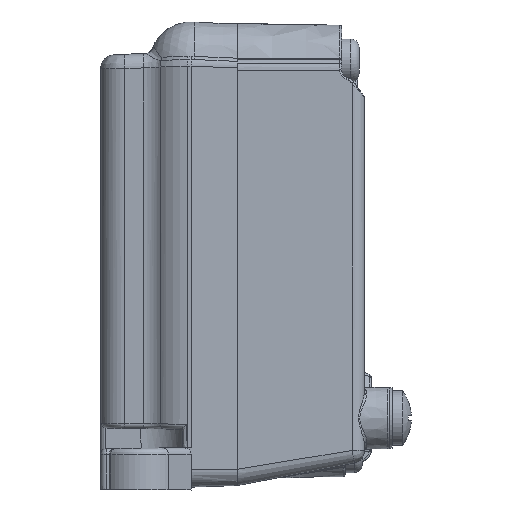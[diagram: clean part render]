
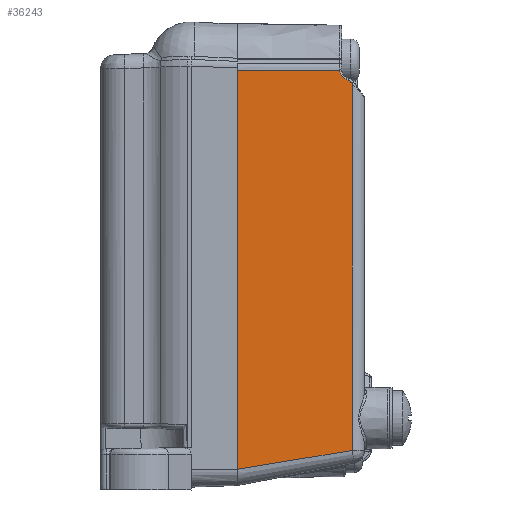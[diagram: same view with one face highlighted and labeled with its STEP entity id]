
A CAD part, left-side view. The second image highlights one B-rep face of the part: STEP entity #36243.
In plain terms, the highlighted planar face has unit normal (-1, -0.018, 0).
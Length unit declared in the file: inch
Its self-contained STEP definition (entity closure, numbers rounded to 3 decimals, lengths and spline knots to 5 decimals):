
#22195=CARTESIAN_POINT('',(-1.67977,0.42318,1.1028));
#22196=VERTEX_POINT('',#22195);
#28774=CARTESIAN_POINT('',(-1.68083,0.48501,1.16905));
#28775=VERTEX_POINT('',#28774);
#28856=CARTESIAN_POINT('',(-1.68029,0.45296,1.1234));
#28857=VERTEX_POINT('',#28856);
#28858=CARTESIAN_POINT('',(-1.67998,0.43504,1.17008));
#28859=DIRECTION('',(-1.,-0.017,0.));
#28860=DIRECTION('',(-0.017,0.999,-0.047));
#28861=AXIS2_PLACEMENT_3D('',#28858,#28859,#28860);
#28862=CIRCLE('',#28861,0.05);
#28863=EDGE_CURVE('',#28775,#28857,#28862,.T.);
#29034=CARTESIAN_POINT('',(-1.68013,0.44353,1.11978));
#29035=VERTEX_POINT('',#29034);
#29036=CARTESIAN_POINT('',(-1.67866,0.35934,1.08746));
#29037=DIRECTION('',(0.016,-0.933,-0.358));
#29038=VECTOR('',#29037,0.01);
#29039=LINE('',#29036,#29038);
#29040=EDGE_CURVE('',#28857,#29035,#29039,.T.);
#29059=CARTESIAN_POINT('',(-1.67982,0.42571,1.10623));
#29060=VERTEX_POINT('',#29059);
#29061=CARTESIAN_POINT('',(-1.68038,0.45787,1.08243));
#29062=DIRECTION('',(1.,0.017,0.));
#29063=DIRECTION('',(0.006,-0.358,0.934));
#29064=AXIS2_PLACEMENT_3D('',#29061,#29062,#29063);
#29065=CIRCLE('',#29064,0.04001);
#29066=EDGE_CURVE('',#29035,#29060,#29065,.T.);
#29177=CARTESIAN_POINT('',(-1.67382,0.08203,0.64177));
#29178=DIRECTION('',(0.01,-0.595,-0.804));
#29179=VECTOR('',#29178,0.01);
#29180=LINE('',#29177,#29179);
#29181=EDGE_CURVE('',#29060,#22196,#29180,.T.);
#29198=CARTESIAN_POINT('',(-1.67977,0.42318,-0.71957));
#29199=VERTEX_POINT('',#29198);
#29200=CARTESIAN_POINT('',(-1.67977,0.42318,0.12665));
#29201=DIRECTION('',(0.,0.,-1.));
#29202=VECTOR('',#29201,0.062);
#29203=LINE('',#29200,#29202);
#29204=EDGE_CURVE('',#22196,#29199,#29203,.T.);
#35573=CARTESIAN_POINT('',(-1.68973,0.99334,1.16944));
#35574=VERTEX_POINT('',#35573);
#35582=CARTESIAN_POINT('',(-1.68973,0.99334,1.16944));
#35583=CARTESIAN_POINT('',(-1.68933,0.97083,1.16936));
#35584=CARTESIAN_POINT('',(-1.68894,0.94833,1.16928));
#35585=CARTESIAN_POINT('',(-1.68855,0.92582,1.16921));
#35586=CARTESIAN_POINT('',(-1.68811,0.90076,1.16912));
#35587=CARTESIAN_POINT('',(-1.68767,0.8757,1.16903));
#35588=CARTESIAN_POINT('',(-1.68724,0.85065,1.16895));
#35589=CARTESIAN_POINT('',(-1.68696,0.83498,1.1689));
#35590=CARTESIAN_POINT('',(-1.68669,0.81932,1.16884));
#35591=CARTESIAN_POINT('',(-1.68642,0.80366,1.16879));
#35592=CARTESIAN_POINT('',(-1.68625,0.79387,1.16876));
#35593=CARTESIAN_POINT('',(-1.68607,0.78408,1.16872));
#35594=CARTESIAN_POINT('',(-1.6859,0.77429,1.16869));
#35595=CARTESIAN_POINT('',(-1.68568,0.76148,1.16865));
#35596=CARTESIAN_POINT('',(-1.68546,0.74867,1.1686));
#35597=CARTESIAN_POINT('',(-1.68523,0.73586,1.16856));
#35598=CARTESIAN_POINT('',(-1.68487,0.71536,1.16849));
#35599=CARTESIAN_POINT('',(-1.68452,0.69486,1.16842));
#35600=CARTESIAN_POINT('',(-1.68416,0.67436,1.16835));
#35601=CARTESIAN_POINT('',(-1.68359,0.64155,1.16824));
#35602=CARTESIAN_POINT('',(-1.68301,0.60875,1.16813));
#35603=CARTESIAN_POINT('',(-1.68244,0.57595,1.16803));
#35604=CARTESIAN_POINT('',(-1.68191,0.54564,1.16792));
#35605=CARTESIAN_POINT('',(-1.68138,0.51533,1.16782));
#35606=CARTESIAN_POINT('',(-1.68085,0.48501,1.16772));
#35607=B_SPLINE_CURVE_WITH_KNOTS('',3,(#35582,#35583,#35584,#35585,#35586,#35587,#35588,#35589,#35590,#35591,#35592,#35593,#35594,#35595,#35596,#35597,#35598,#35599,#35600,#35601,#35602,#35603,#35604,#35605,#35606),.UNSPECIFIED.,.F.,.F.,(4,3,3,3,3,3,3,3,4),(0.01002,0.07754,0.15273,0.19972,0.22909,0.26754,0.32905,0.42746,0.51842),.UNSPECIFIED.);
#35608=EDGE_CURVE('',#35574,#28775,#35607,.T.);
#36216=CARTESIAN_POINT('',(-1.68973,0.99334,-0.81271));
#36217=VERTEX_POINT('',#36216);
#36218=CARTESIAN_POINT('',(-1.68973,0.99334,0.68936));
#36219=DIRECTION('',(0.,0.,1.));
#36220=VECTOR('',#36219,1.);
#36221=LINE('',#36218,#36220);
#36222=EDGE_CURVE('',#36217,#35574,#36221,.T.);
#36223=ORIENTED_EDGE('',*,*,#36222,.F.);
#36224=CARTESIAN_POINT('',(-1.68999,1.00859,-0.8152));
#36225=DIRECTION('',(-0.017,0.987,-0.161));
#36226=VECTOR('',#36225,0.64312);
#36227=LINE('',#36224,#36226);
#36228=EDGE_CURVE('',#29199,#36217,#36227,.T.);
#36229=ORIENTED_EDGE('',*,*,#36228,.F.);
#36230=ORIENTED_EDGE('',*,*,#29204,.F.);
#36231=ORIENTED_EDGE('',*,*,#29181,.F.);
#36232=ORIENTED_EDGE('',*,*,#29066,.F.);
#36233=ORIENTED_EDGE('',*,*,#29040,.F.);
#36234=ORIENTED_EDGE('',*,*,#28863,.F.);
#36235=ORIENTED_EDGE('',*,*,#35608,.F.);
#36236=EDGE_LOOP('',(#36223,#36229,#36230,#36231,#36232,#36233,#36234,#36235));
#36237=FACE_OUTER_BOUND('',#36236,.T.);
#36238=CARTESIAN_POINT('',(-1.68475,0.70825,0.17825));
#36239=DIRECTION('',(-1.,-0.017,0.));
#36240=DIRECTION('',(0.,0.,1.));
#36241=AXIS2_PLACEMENT_3D('',#36238,#36239,#36240);
#36242=PLANE('',#36241);
#36243=ADVANCED_FACE('',(#36237),#36242,.T.);
